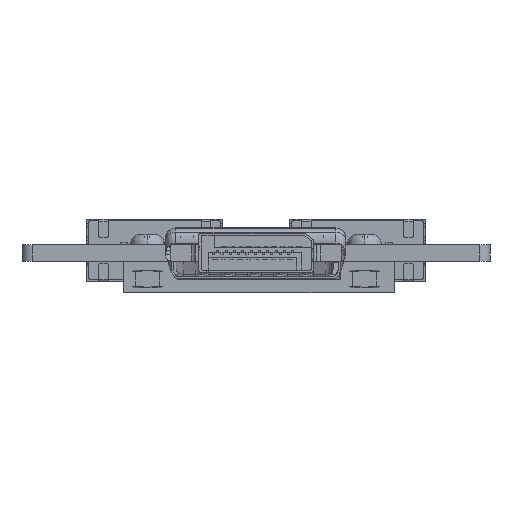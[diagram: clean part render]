
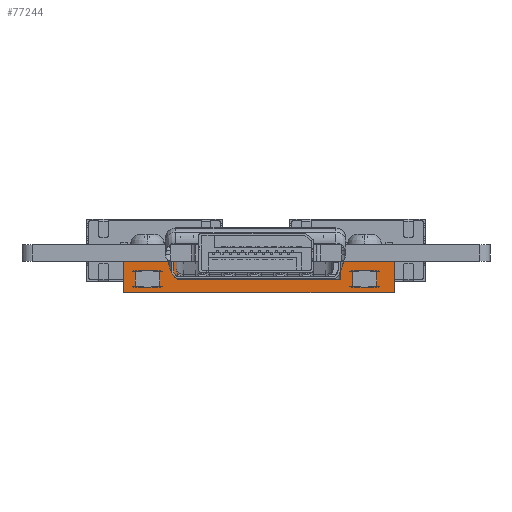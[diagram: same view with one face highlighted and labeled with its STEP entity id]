
A CAD part, front view. The second image highlights one B-rep face of the part: STEP entity #77244.
In plain terms, the highlighted planar face has unit normal (0, -1, 0) as drawn and (0, 1, 0) by its records, which use the part's own axes.
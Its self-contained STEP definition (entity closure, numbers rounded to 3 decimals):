
#77030 = VERTEX_POINT('',#77031);
#77031 = CARTESIAN_POINT('',(75.096,28.2,-1.3));
#77037 = EDGE_CURVE('',#77030,#77038,#77040,.T.);
#77038 = VERTEX_POINT('',#77039);
#77039 = CARTESIAN_POINT('',(90.806,28.2,-1.3));
#77040 = LINE('',#77041,#77042);
#77041 = CARTESIAN_POINT('',(0.,28.2,-1.3));
#77042 = VECTOR('',#77043,1.);
#77043 = DIRECTION('',(1.,0.,0.));
#77071 = VERTEX_POINT('',#77072);
#77072 = CARTESIAN_POINT('',(95.951,28.2,0.));
#77078 = EDGE_CURVE('',#77079,#77071,#77081,.T.);
#77079 = VERTEX_POINT('',#77080);
#77080 = CARTESIAN_POINT('',(69.951,28.2,0.));
#77081 = LINE('',#77082,#77083);
#77082 = CARTESIAN_POINT('',(0.,28.2,0.));
#77083 = VECTOR('',#77084,1.);
#77084 = DIRECTION('',(1.,0.,0.));
#77147 = VERTEX_POINT('',#77148);
#77148 = CARTESIAN_POINT('',(69.951,28.2,-3.));
#77154 = EDGE_CURVE('',#77147,#77155,#77157,.T.);
#77155 = VERTEX_POINT('',#77156);
#77156 = CARTESIAN_POINT('',(75.096,28.2,-3.));
#77157 = LINE('',#77158,#77159);
#77158 = CARTESIAN_POINT('',(0.,28.2,-3.));
#77159 = VECTOR('',#77160,1.);
#77160 = DIRECTION('',(1.,0.,0.));
#77197 = VERTEX_POINT('',#77198);
#77198 = CARTESIAN_POINT('',(90.806,28.2,-3.));
#77204 = EDGE_CURVE('',#77197,#77205,#77207,.T.);
#77205 = VERTEX_POINT('',#77206);
#77206 = CARTESIAN_POINT('',(95.951,28.2,-3.));
#77207 = LINE('',#77208,#77209);
#77208 = CARTESIAN_POINT('',(0.,28.2,-3.));
#77209 = VECTOR('',#77210,1.);
#77210 = DIRECTION('',(1.,0.,0.));
#77234 = EDGE_CURVE('',#77205,#77071,#77235,.T.);
#77235 = LINE('',#77236,#77237);
#77236 = CARTESIAN_POINT('',(95.951,28.2,-3.));
#77237 = VECTOR('',#77238,1.);
#77238 = DIRECTION('',(0.,0.,1.));
#77244 = ADVANCED_FACE('',(#77245),#77270,.F.);
#77245 = FACE_BOUND('',#77246,.T.);
#77246 = EDGE_LOOP('',(#77247,#77248,#77249,#77250,#77256,#77257,#77263,
    #77264));
#77247 = ORIENTED_EDGE('',*,*,#77078,.T.);
#77248 = ORIENTED_EDGE('',*,*,#77234,.F.);
#77249 = ORIENTED_EDGE('',*,*,#77204,.F.);
#77250 = ORIENTED_EDGE('',*,*,#77251,.T.);
#77251 = EDGE_CURVE('',#77197,#77038,#77252,.T.);
#77252 = LINE('',#77253,#77254);
#77253 = CARTESIAN_POINT('',(90.806,28.2,-3.));
#77254 = VECTOR('',#77255,1.);
#77255 = DIRECTION('',(0.,0.,1.));
#77256 = ORIENTED_EDGE('',*,*,#77037,.F.);
#77257 = ORIENTED_EDGE('',*,*,#77258,.F.);
#77258 = EDGE_CURVE('',#77155,#77030,#77259,.T.);
#77259 = LINE('',#77260,#77261);
#77260 = CARTESIAN_POINT('',(75.096,28.2,-3.));
#77261 = VECTOR('',#77262,1.);
#77262 = DIRECTION('',(0.,0.,1.));
#77263 = ORIENTED_EDGE('',*,*,#77154,.F.);
#77264 = ORIENTED_EDGE('',*,*,#77265,.T.);
#77265 = EDGE_CURVE('',#77147,#77079,#77266,.T.);
#77266 = LINE('',#77267,#77268);
#77267 = CARTESIAN_POINT('',(69.951,28.2,-3.));
#77268 = VECTOR('',#77269,1.);
#77269 = DIRECTION('',(0.,0.,1.));
#77270 = PLANE('',#77271);
#77271 = AXIS2_PLACEMENT_3D('',#77272,#77273,#77274);
#77272 = CARTESIAN_POINT('',(0.,28.2,-3.));
#77273 = DIRECTION('',(0.,-1.,0.));
#77274 = DIRECTION('',(0.,0.,-1.));
